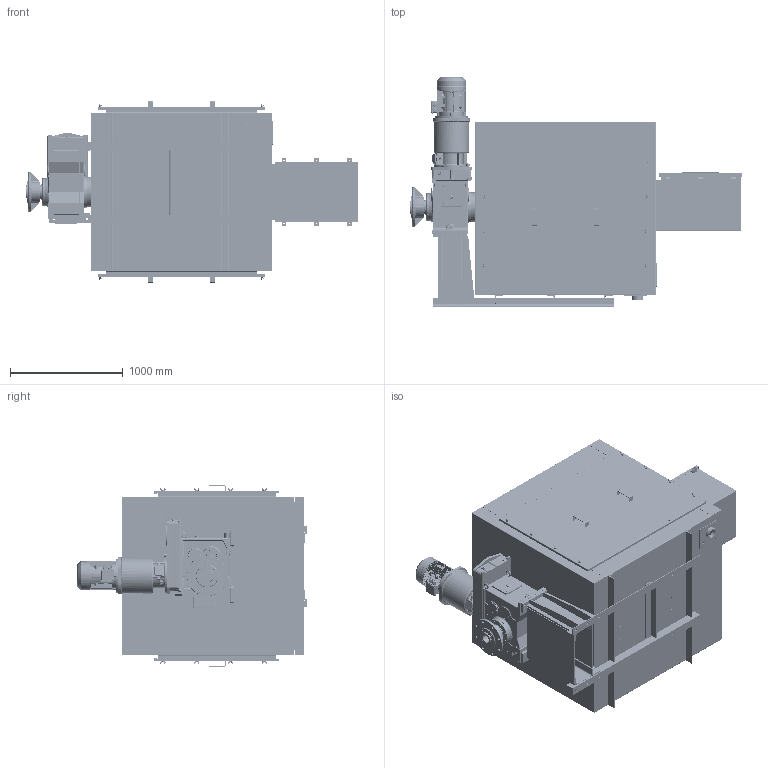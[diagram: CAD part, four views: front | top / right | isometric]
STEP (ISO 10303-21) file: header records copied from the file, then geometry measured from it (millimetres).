
FILE_DESCRIPTION(/* description */ (''),/* implementation_level */ '2;1');
FILE_NAME(/* name */ 'K:\NEMANJA\CABLE REEL\CABLE REEL DA\0700-6\07006002 DAPR-MCGBSR\STEP\75941 .stp',/* time_stamp */ '2017-03-16T12:53:40+01:00',/* author */ ('milman01'),/* organization */ ('Hillmar Industries Ltd.'),/* preprocessor_version */ 'ST-DEVELOPER v16.1',/* originating_system */ 'Autodesk Inventor 2016',/* authorisation */ '');
FILE_SCHEMA (('AUTOMOTIVE_DESIGN { 1 0 10303 214 3 1 1 }'));
Products named in the file (1): 75941 
Bounding box: 2940.69 x 2028.71 x 1606.6 mm (x, y, z)
Volume: 141352035.2 mm3; surface area: 48607569.1 mm2
Topology: 22 solids, 22 shells, 7875 faces, 21131 edges, 13489 vertices
Faces by surface type: plane 4521, cylinder 1831, bspline 755, cone 450, torus 253, sphere 65
Full cylindrical faces by diameter (mm): 3 x4, 8 x3, 8.376 x32, 8.731 x1, 9 x4, 10 x34, 10.106 x94, 11 x20, 12 x24, 12.5 x6, 13 x65, 13.5 x12, 14 x12, 14.5 x8, 15 x8, 17.294 x4, 18 x2, 18.256 x3, 20 x22, 20.5 x4, 21.336 x1, 22 x20, 22.225 x1, 22.631 x1, 23.812 x1, 24.917 x1, 24.918 x2, 25 x4, 28 x5, 29.369 x1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
Entity records: 266470 total; most frequent: CARTESIAN_POINT 69136, ORIENTED_EDGE 39942, DIRECTION 36822, EDGE_CURVE 19961, VERTEX_POINT 13130, AXIS2_PLACEMENT_3D 12348, LINE 12126, VECTOR 12126
